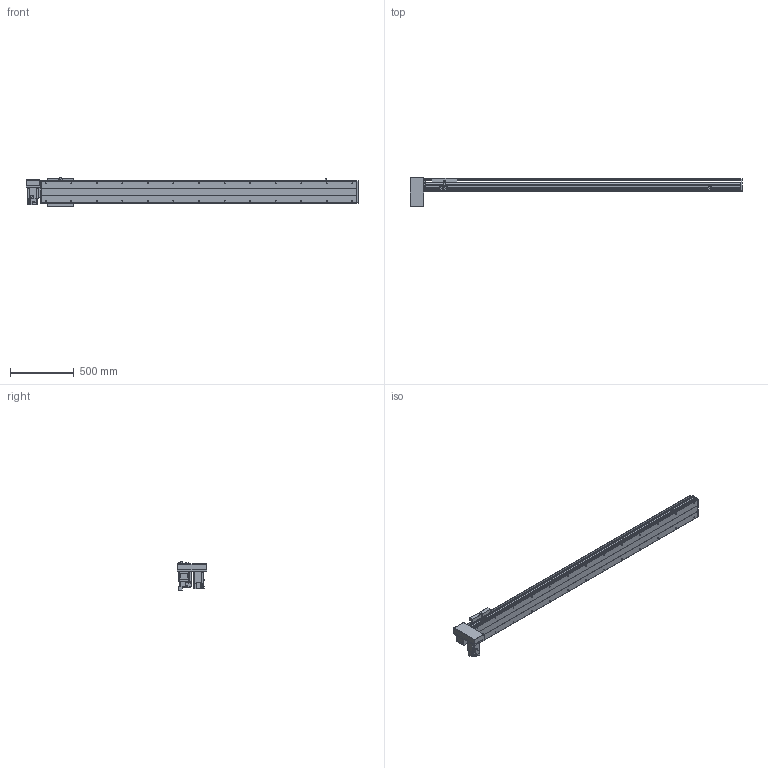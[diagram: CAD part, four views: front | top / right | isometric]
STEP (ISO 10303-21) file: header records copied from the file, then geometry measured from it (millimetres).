
FILE_DESCRIPTION(/* description */ ('STEP AP214'),/* implementation_level */ '2;1');
FILE_NAME(/* name */ 'PBS200-P40-S2100-RD-T75-C1-N(0)',/* time_stamp */ '2022-06-11T09:31:15+02:00',/* author */ ('License CC BY-ND 4.0'),/* organization */ ('CADENAS'),/* preprocessor_version */ 'ST-DEVELOPER v18.102',/* originating_system */ 'PARTsolutions',/* authorisation */ ' ');
FILE_SCHEMA (('AUTOMOTIVE_DESIGN {1 0 10303 214 3 1 1}'));
Length unit declared in the file: millimetre
Products named in the file (7): PBS200-P40-S2100-RD-T75-C1-N(0); PBS200_sensor; PBS200_plant; PBS200_sliser; T75-p1; PBS200T-RD_motors; PBS200-S2100()_body
Assembly tree (8 placements, depth 2):
  PBS200-P40-S2100-RD-T75-C1-N(0)
    PBS200_sensor  x3
    PBS200_plant
    PBS200_sliser
    T75-p1
    PBS200T-RD_motors
    PBS200-S2100()_body
Bounding box: 2600 x 230 x 221 mm (x, y, z)
Volume: 18106539.4 mm3; surface area: 2902310.1 mm2
Topology: 8 solids, 8 shells, 950 faces, 2424 edges, 1578 vertices
Faces by surface type: plane 584, cylinder 308, cone 58
Full cylindrical faces by diameter (mm): 2.459 x6, 3.242 x4, 4.5 x6, 4.917 x4, 5 x6, 6 x7, 6.6 x8, 6.647 x30, 8 x6, 10 x4, 12 x8, 38 x2, 40 x1, 70 x1
Entity records: 25181 total; most frequent: DIRECTION 4447, CARTESIAN_POINT 4282, ORIENTED_EDGE 4042, EDGE_CURVE 2021, AXIS2_PLACEMENT_3D 1567, VERTEX_POINT 1402, LINE 1313, VECTOR 1313
